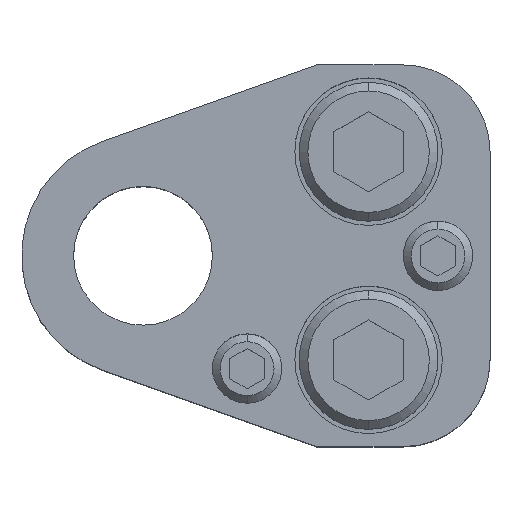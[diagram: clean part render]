
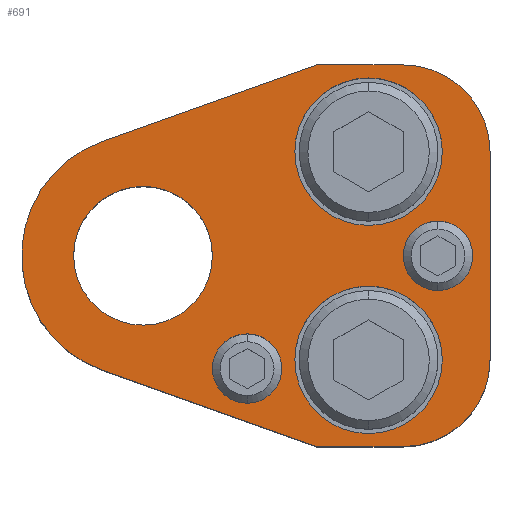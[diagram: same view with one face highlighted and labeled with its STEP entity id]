
A CAD part, top view. The second image highlights one B-rep face of the part: STEP entity #691.
In plain terms, the highlighted planar face has unit normal (0, 0, 1).
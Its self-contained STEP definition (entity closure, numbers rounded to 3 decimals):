
#359=LINE('',#3325,#523);
#363=LINE('',#3334,#527);
#367=LINE('',#3346,#531);
#370=LINE('',#3352,#534);
#374=LINE('',#3364,#538);
#523=VECTOR('',#2652,1.);
#527=VECTOR('',#2658,1.);
#531=VECTOR('',#2670,1.);
#534=VECTOR('',#2675,1.);
#538=VECTOR('',#2687,1.);
#691=ADVANCED_FACE('',(#847,#848,#849,#850,#851,#852),#797,.T.);
#797=PLANE('',#2335);
#847=FACE_BOUND('',#939,.T.);
#848=FACE_BOUND('',#940,.T.);
#849=FACE_BOUND('',#941,.T.);
#850=FACE_BOUND('',#942,.T.);
#851=FACE_BOUND('',#943,.T.);
#852=FACE_BOUND('',#944,.T.);
#939=EDGE_LOOP('',(#1281,#1282,#1283,#1284,#1285,#1286,#1287,#1288));
#940=EDGE_LOOP('',(#1289,#1290));
#941=EDGE_LOOP('',(#1291,#1292));
#942=EDGE_LOOP('',(#1293,#1294));
#943=EDGE_LOOP('',(#1295,#1296));
#944=EDGE_LOOP('',(#1297,#1298));
#1281=ORIENTED_EDGE('',*,*,#1878,.T.);
#1282=ORIENTED_EDGE('',*,*,#1882,.T.);
#1283=ORIENTED_EDGE('',*,*,#1885,.T.);
#1284=ORIENTED_EDGE('',*,*,#1888,.T.);
#1285=ORIENTED_EDGE('',*,*,#1891,.T.);
#1286=ORIENTED_EDGE('',*,*,#1894,.T.);
#1287=ORIENTED_EDGE('',*,*,#1897,.T.);
#1288=ORIENTED_EDGE('',*,*,#1900,.T.);
#1289=ORIENTED_EDGE('',*,*,#1935,.F.);
#1290=ORIENTED_EDGE('',*,*,#1936,.F.);
#1291=ORIENTED_EDGE('',*,*,#1937,.F.);
#1292=ORIENTED_EDGE('',*,*,#1938,.F.);
#1293=ORIENTED_EDGE('',*,*,#1933,.F.);
#1294=ORIENTED_EDGE('',*,*,#1929,.F.);
#1295=ORIENTED_EDGE('',*,*,#1927,.F.);
#1296=ORIENTED_EDGE('',*,*,#1923,.F.);
#1297=ORIENTED_EDGE('',*,*,#1939,.T.);
#1298=ORIENTED_EDGE('',*,*,#1940,.T.);
#1664=VERTEX_POINT('',#3324);
#1665=VERTEX_POINT('',#3326);
#1668=VERTEX_POINT('',#3333);
#1670=VERTEX_POINT('',#3339);
#1672=VERTEX_POINT('',#3345);
#1674=VERTEX_POINT('',#3351);
#1676=VERTEX_POINT('',#3357);
#1678=VERTEX_POINT('',#3363);
#1695=VERTEX_POINT('',#3416);
#1696=VERTEX_POINT('',#3417);
#1699=VERTEX_POINT('',#3429);
#1700=VERTEX_POINT('',#3430);
#1703=VERTEX_POINT('',#3442);
#1704=VERTEX_POINT('',#3443);
#1705=VERTEX_POINT('',#3446);
#1706=VERTEX_POINT('',#3447);
#1707=VERTEX_POINT('',#3450);
#1708=VERTEX_POINT('',#3451);
#1878=EDGE_CURVE('',#1665,#1664,#359,.T.);
#1882=EDGE_CURVE('',#1664,#1668,#363,.T.);
#1885=EDGE_CURVE('',#1668,#1670,#2117,.T.);
#1888=EDGE_CURVE('',#1670,#1672,#367,.T.);
#1891=EDGE_CURVE('',#1672,#1674,#370,.T.);
#1894=EDGE_CURVE('',#1674,#1676,#2119,.T.);
#1897=EDGE_CURVE('',#1676,#1678,#374,.T.);
#1900=EDGE_CURVE('',#1678,#1665,#2122,.T.);
#1923=EDGE_CURVE('',#1695,#1696,#2139,.T.);
#1927=EDGE_CURVE('',#1696,#1695,#2141,.T.);
#1929=EDGE_CURVE('',#1699,#1700,#2143,.T.);
#1933=EDGE_CURVE('',#1700,#1699,#2145,.T.);
#1935=EDGE_CURVE('',#1703,#1704,#2147,.T.);
#1936=EDGE_CURVE('',#1704,#1703,#2148,.T.);
#1937=EDGE_CURVE('',#1705,#1706,#2149,.T.);
#1938=EDGE_CURVE('',#1706,#1705,#2150,.T.);
#1939=EDGE_CURVE('',#1707,#1708,#2151,.T.);
#1940=EDGE_CURVE('',#1708,#1707,#2152,.T.);
#2117=CIRCLE('',#2280,14.);
#2119=CIRCLE('',#2285,10.);
#2122=CIRCLE('',#2290,10.);
#2139=CIRCLE('',#2315,8.5);
#2141=CIRCLE('',#2318,8.5);
#2143=CIRCLE('',#2322,8.5);
#2145=CIRCLE('',#2325,8.5);
#2147=CIRCLE('',#2329,4.);
#2148=CIRCLE('',#2330,4.);
#2149=CIRCLE('',#2331,4.);
#2150=CIRCLE('',#2332,4.);
#2151=CIRCLE('',#2333,8.);
#2152=CIRCLE('',#2334,8.);
#2280=AXIS2_PLACEMENT_3D('',#3340,#2663,#2664);
#2285=AXIS2_PLACEMENT_3D('',#3358,#2680,#2681);
#2290=AXIS2_PLACEMENT_3D('',#3368,#2693,#2694);
#2315=AXIS2_PLACEMENT_3D('',#3415,#2749,#2750);
#2318=AXIS2_PLACEMENT_3D('',#3424,#2757,#2758);
#2322=AXIS2_PLACEMENT_3D('',#3428,#2765,#2766);
#2325=AXIS2_PLACEMENT_3D('',#3437,#2773,#2774);
#2329=AXIS2_PLACEMENT_3D('',#3441,#2781,#2782);
#2330=AXIS2_PLACEMENT_3D('',#3444,#2783,#2784);
#2331=AXIS2_PLACEMENT_3D('',#3445,#2785,#2786);
#2332=AXIS2_PLACEMENT_3D('',#3448,#2787,#2788);
#2333=AXIS2_PLACEMENT_3D('',#3449,#2789,#2790);
#2334=AXIS2_PLACEMENT_3D('',#3452,#2791,#2792);
#2335=AXIS2_PLACEMENT_3D('',#3453,#2793,#2794);
#2652=DIRECTION('',(-1.,0.,0.));
#2658=DIRECTION('',(-0.942,-0.336,0.));
#2663=DIRECTION('',(0.,0.,1.));
#2664=DIRECTION('',(-0.106,0.994,0.));
#2670=DIRECTION('',(0.942,-0.336,0.));
#2675=DIRECTION('',(1.,0.,0.));
#2680=DIRECTION('',(0.,0.,1.));
#2681=DIRECTION('',(-0.707,0.707,0.));
#2687=DIRECTION('',(0.,1.,0.));
#2693=DIRECTION('',(0.,0.,1.));
#2694=DIRECTION('',(-0.707,-0.707,0.));
#2749=DIRECTION('',(0.,0.,1.));
#2750=DIRECTION('',(-1.,0.,0.));
#2757=DIRECTION('',(0.,0.,1.));
#2758=DIRECTION('',(1.,0.,0.));
#2765=DIRECTION('',(0.,0.,1.));
#2766=DIRECTION('',(-1.,0.,0.));
#2773=DIRECTION('',(0.,0.,1.));
#2774=DIRECTION('',(1.,0.,0.));
#2781=DIRECTION('',(0.,0.,1.));
#2782=DIRECTION('',(1.,0.,0.));
#2783=DIRECTION('',(0.,0.,1.));
#2784=DIRECTION('',(-1.,0.,0.));
#2785=DIRECTION('',(0.,0.,1.));
#2786=DIRECTION('',(1.,0.,0.));
#2787=DIRECTION('',(0.,0.,1.));
#2788=DIRECTION('',(-1.,0.,0.));
#2789=DIRECTION('',(0.,0.,-1.));
#2790=DIRECTION('',(-1.,0.,0.));
#2791=DIRECTION('',(0.,0.,-1.));
#2792=DIRECTION('',(1.,0.,0.));
#2793=DIRECTION('',(0.,0.,1.));
#2794=DIRECTION('',(1.,0.,0.));
#3324=CARTESIAN_POINT('',(20.,22.,30.));
#3325=CARTESIAN_POINT('',(30.,22.,30.));
#3326=CARTESIAN_POINT('',(30.,22.,30.));
#3333=CARTESIAN_POINT('',(-4.704,13.186,30.));
#3334=CARTESIAN_POINT('',(20.,22.,30.));
#3339=CARTESIAN_POINT('',(-4.704,-13.186,30.));
#3340=CARTESIAN_POINT('',(0.,0.,30.));
#3345=CARTESIAN_POINT('',(20.,-22.,30.));
#3346=CARTESIAN_POINT('',(20.,-22.,30.));
#3351=CARTESIAN_POINT('',(30.,-22.,30.));
#3352=CARTESIAN_POINT('',(30.,-22.,30.));
#3357=CARTESIAN_POINT('',(40.,-12.,30.));
#3358=CARTESIAN_POINT('',(30.,-12.,30.));
#3363=CARTESIAN_POINT('',(40.,12.,30.));
#3364=CARTESIAN_POINT('',(40.,12.,30.));
#3368=CARTESIAN_POINT('',(30.,12.,30.));
#3415=CARTESIAN_POINT('',(26.,-12.,30.));
#3416=CARTESIAN_POINT('',(26.,-20.5,30.));
#3417=CARTESIAN_POINT('',(26.,-3.5,30.));
#3424=CARTESIAN_POINT('',(26.,-12.,30.));
#3428=CARTESIAN_POINT('',(26.,12.,30.));
#3429=CARTESIAN_POINT('',(26.,3.5,30.));
#3430=CARTESIAN_POINT('',(26.,20.5,30.));
#3437=CARTESIAN_POINT('',(26.,12.,30.));
#3441=CARTESIAN_POINT('',(12.,-13.,30.));
#3442=CARTESIAN_POINT('',(12.,-9.,30.));
#3443=CARTESIAN_POINT('',(12.,-17.,30.));
#3444=CARTESIAN_POINT('',(12.,-13.,30.));
#3445=CARTESIAN_POINT('',(34.,0.,30.));
#3446=CARTESIAN_POINT('',(34.,4.,30.));
#3447=CARTESIAN_POINT('',(34.,-4.,30.));
#3448=CARTESIAN_POINT('',(34.,0.,30.));
#3449=CARTESIAN_POINT('',(0.,0.,30.));
#3450=CARTESIAN_POINT('',(0.,8.,30.));
#3451=CARTESIAN_POINT('',(0.,-8.,30.));
#3452=CARTESIAN_POINT('',(0.,0.,30.));
#3453=CARTESIAN_POINT('',(30.,22.,30.));
